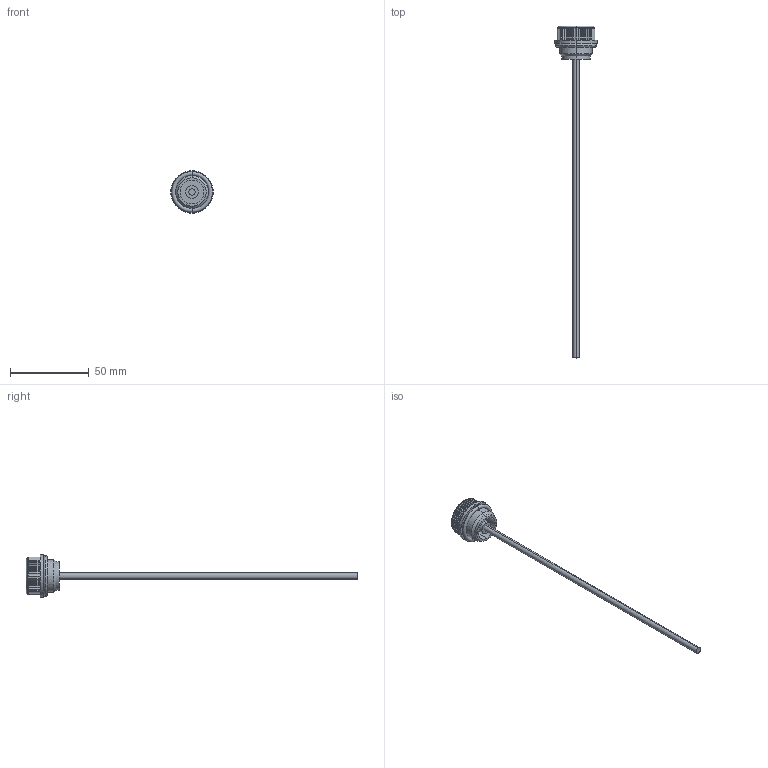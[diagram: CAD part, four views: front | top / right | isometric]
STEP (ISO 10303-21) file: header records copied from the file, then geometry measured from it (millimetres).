
FILE_DESCRIPTION (( 'STEP AP203' ), '1' );
FILE_NAME ('Wiberger-wn9132_1-2tum.step', '2012-09-21T10:33:49', ( 'Magnus' ), ( 'Wiberger' ), 'SwSTEP 2.0', 'SolidWorks 2011', '' );
FILE_SCHEMA (( 'CONFIG_CONTROL_DESIGN' ));
Length unit declared in the file: millimetre
Products named in the file (1): Wiberger-wn9132_1-2tum
Bounding box: 27 x 211 x 27 mm (x, y, z)
Volume: 9440.9 mm3; surface area: 6669.6 mm2
Topology: 3 solids, 3 shells, 231 faces, 616 edges, 314 vertices
Faces by surface type: cylinder 134, torus 86, plane 9, cone 2
Entity records: 6887 total; most frequent: CARTESIAN_POINT 1482, DIRECTION 1240, ORIENTED_EDGE 1072, AXIS2_PLACEMENT_3D 552, EDGE_CURVE 536, CIRCLE 320, VERTEX_POINT 314, EDGE_LOOP 236
